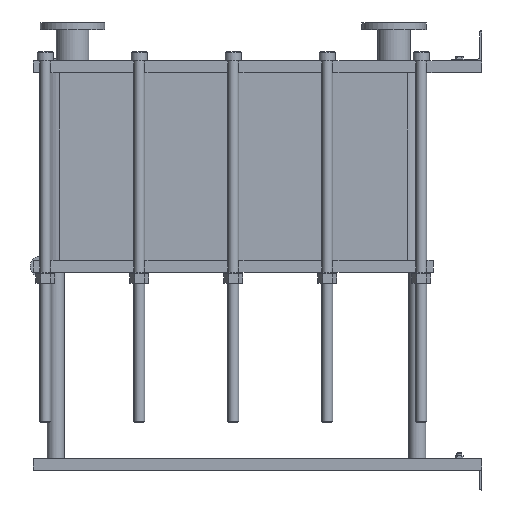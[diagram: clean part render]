
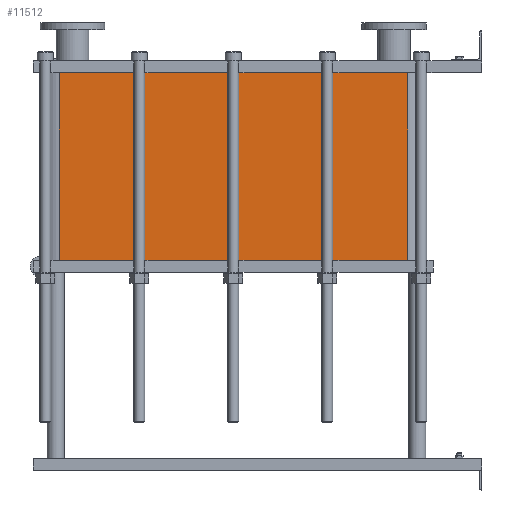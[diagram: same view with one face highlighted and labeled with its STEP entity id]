
A CAD part, left-side view. The second image highlights one B-rep face of the part: STEP entity #11512.
In plain terms, the highlighted planar face has unit normal (-1, 0, 0).
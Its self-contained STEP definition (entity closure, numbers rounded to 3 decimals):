
#1129=LINE('',#23232,#2102);
#1130=LINE('',#23236,#2103);
#1131=LINE('',#23238,#2104);
#1132=LINE('',#23239,#2105);
#2102=VECTOR('',#15887,10.);
#2103=VECTOR('',#15892,10.);
#2104=VECTOR('',#15893,10.);
#2105=VECTOR('',#15894,10.);
#3267=FACE_OUTER_BOUND('',#4093,.T.);
#4093=EDGE_LOOP('',(#10103,#10104,#10105,#10106));
#5642=VERTEX_POINT('',#23229);
#5643=VERTEX_POINT('',#23231);
#5644=VERTEX_POINT('',#23235);
#5645=VERTEX_POINT('',#23237);
#7159=EDGE_CURVE('',#5643,#5642,#1129,.T.);
#7161=EDGE_CURVE('',#5642,#5644,#1130,.T.);
#7162=EDGE_CURVE('',#5645,#5644,#1131,.T.);
#7163=EDGE_CURVE('',#5645,#5643,#1132,.T.);
#10103=ORIENTED_EDGE('',*,*,#7161,.T.);
#10104=ORIENTED_EDGE('',*,*,#7162,.F.);
#10105=ORIENTED_EDGE('',*,*,#7163,.T.);
#10106=ORIENTED_EDGE('',*,*,#7159,.T.);
#10857=PLANE('',#12751);
#11512=ADVANCED_FACE('',(#3267),#10857,.T.);
#12751=AXIS2_PLACEMENT_3D('',#23234,#15890,#15891);
#15887=DIRECTION('',(0.,0.,-1.));
#15890=DIRECTION('center_axis',(-1.,0.,0.));
#15891=DIRECTION('ref_axis',(0.,1.,0.));
#15892=DIRECTION('',(0.,-1.,0.));
#15893=DIRECTION('',(0.,0.,-1.));
#15894=DIRECTION('',(0.,1.,0.));
#23229=CARTESIAN_POINT('',(-200.,1414.,-627.9));
#23231=CARTESIAN_POINT('',(-200.,1414.,0.));
#23232=CARTESIAN_POINT('',(-200.,1414.,0.));
#23234=CARTESIAN_POINT('Origin',(-200.,248.,0.));
#23235=CARTESIAN_POINT('',(-200.,248.,-627.9));
#23236=CARTESIAN_POINT('',(-200.,539.5,-627.9));
#23237=CARTESIAN_POINT('',(-200.,248.,0.));
#23238=CARTESIAN_POINT('',(-200.,248.,0.));
#23239=CARTESIAN_POINT('',(-200.,248.,0.));
